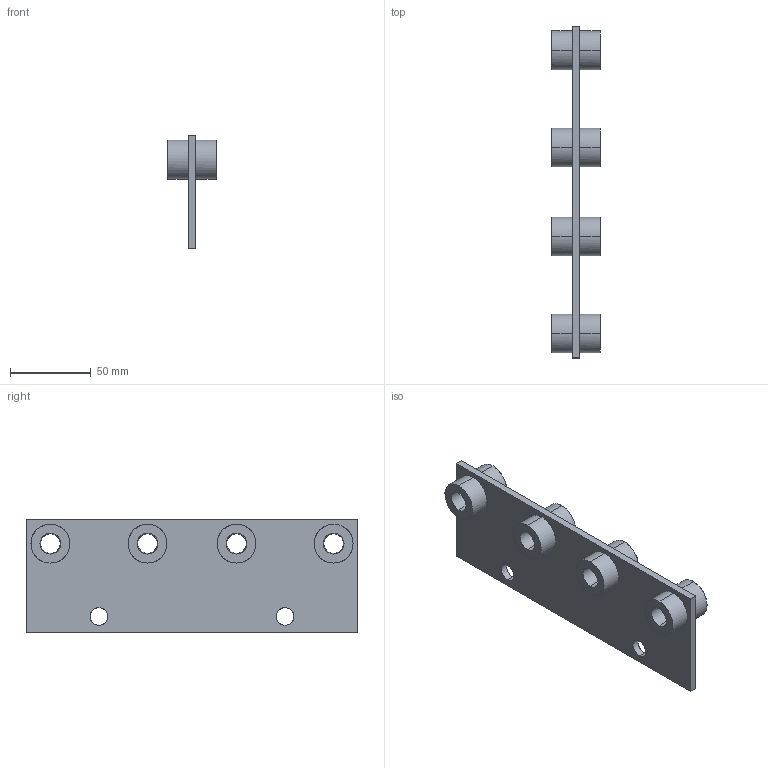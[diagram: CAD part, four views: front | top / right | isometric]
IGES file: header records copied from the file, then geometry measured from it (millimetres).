
Global section: file name: E:\UnigraphicsGraphicData\MISUMI_PRESS-PARTS\IGES\3d_dahk-b_03681_r00.igs; native system: NX V5.0; preprocessor: UGS NX IGES V5.0; author: MISUMI; date: 20110105.160523; units: millimetre
Bounding box: 30 x 205 x 70 mm (x, y, z)
Surface area: 42408.8 mm2 (no closed solid volume)
Topology: 0 solids, 0 shells, 58 faces, 424 edges, 424 vertices
Faces by surface type: bspline 58
